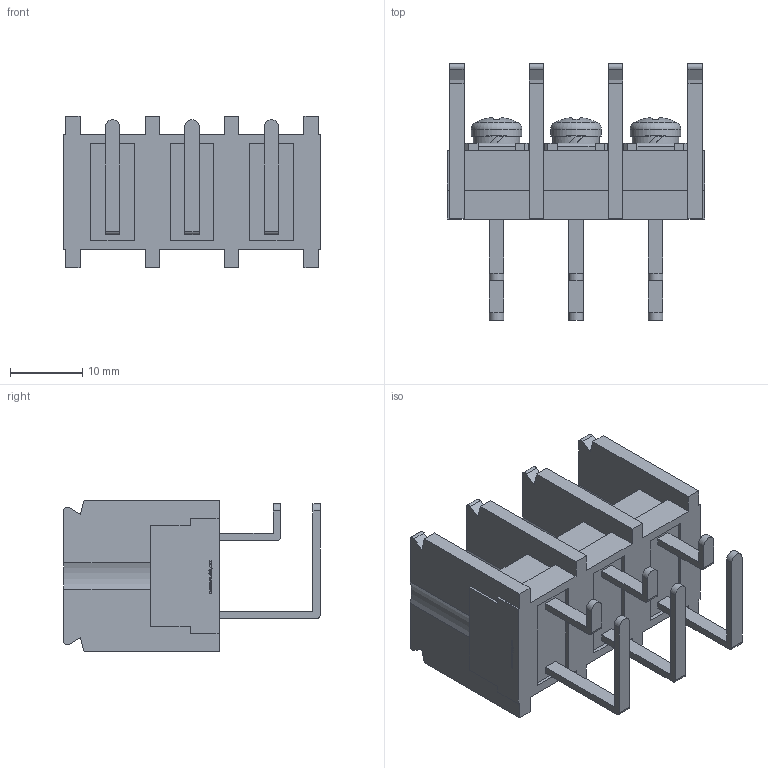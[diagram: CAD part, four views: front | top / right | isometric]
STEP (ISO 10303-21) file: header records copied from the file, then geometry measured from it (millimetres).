
FILE_DESCRIPTION(/* description */ ('Alibre Inc.'),/* implementation_level */ '2;1');
FILE_NAME(/* name */ 'export0',/* time_stamp */ '2015-12-02T12:49:50+09:00',/* author */ (''),/* organization */ (''),/* preprocessor_version */ 'ST-DEVELOPER v14',/* originating_system */ 'Alibre',/* authorisation */ '');
FILE_SCHEMA (('CONFIG_CONTROL_DESIGN'));
Length unit declared in the file: centimetre
Products named in the file (1): ID_1
Bounding box: 35.6 x 35.5 x 21 mm (x, y, z)
Volume: 6947.2 mm3; surface area: 7868 mm2
Topology: 1 solids, 17 shells, 731 faces, 1962 edges, 1306 vertices
Faces by surface type: plane 560, bspline 104, cylinder 46, cone 15, sphere 3, torus 3
Full cylindrical faces by diameter (mm): 4 x3, 6.5 x3, 7 x3
Entity records: 21933 total; most frequent: CARTESIAN_POINT 4945, ORIENTED_EDGE 3900, DIRECTION 2515, EDGE_CURVE 1950, VECTOR 1513, LINE 1513, VERTEX_POINT 1306, EDGE_LOOP 798
